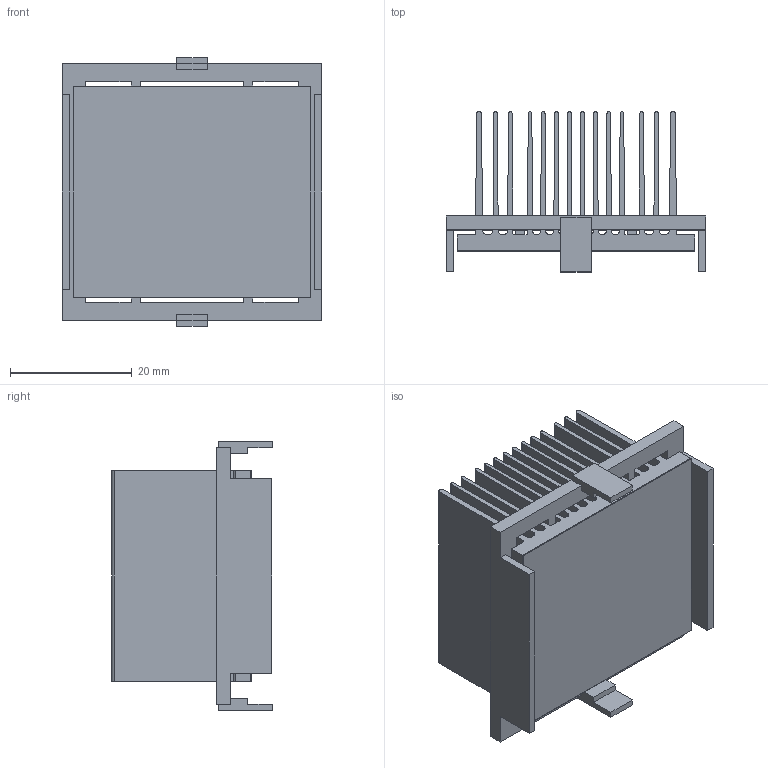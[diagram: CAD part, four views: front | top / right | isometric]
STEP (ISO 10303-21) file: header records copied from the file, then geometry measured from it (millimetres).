
FILE_DESCRIPTION (( 'STEP AP214' ), '1' );
FILE_NAME ('INH40001-23-2.6Y.STEP', '2023-02-20T19:49:16', ( '' ), ( '' ), 'SwSTEP 2.0', 'SolidWorks 2020', '' );
FILE_SCHEMA (( 'AUTOMOTIVE_DESIGN' ));
Length unit declared in the file: millimetre
Products named in the file (1): INH40001-23-2.6Y
Bounding box: 42.7 x 26.36 x 44.2 mm (x, y, z)
Volume: 13148.3 mm3; surface area: 28446.4 mm2
Topology: 3 solids, 3 shells, 154 faces, 444 edges, 296 vertices
Faces by surface type: plane 112, cylinder 42
Entity records: 6782 total; most frequent: CARTESIAN_POINT 895, ORIENTED_EDGE 888, DIRECTION 838, EDGE_CURVE 444, VECTOR 360, LINE 360, VERTEX_POINT 296, AXIS2_PLACEMENT_3D 239
